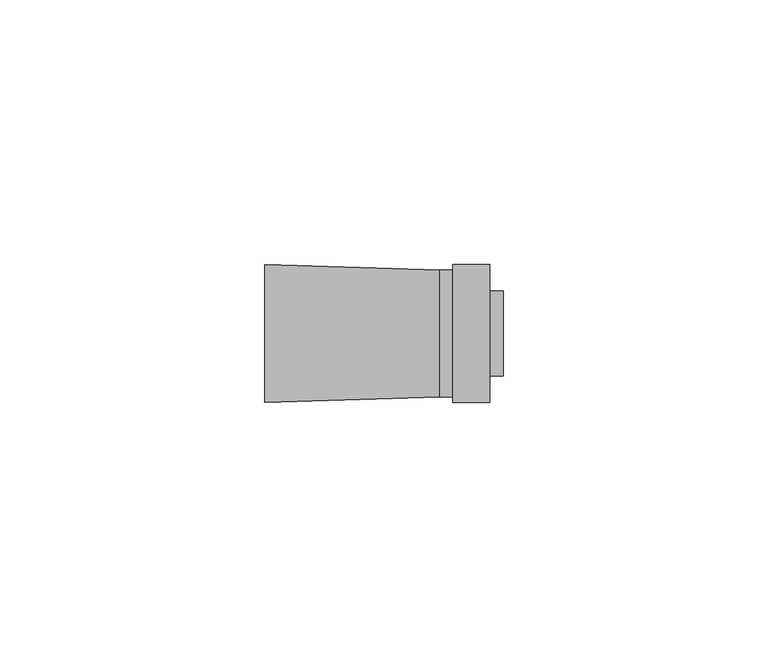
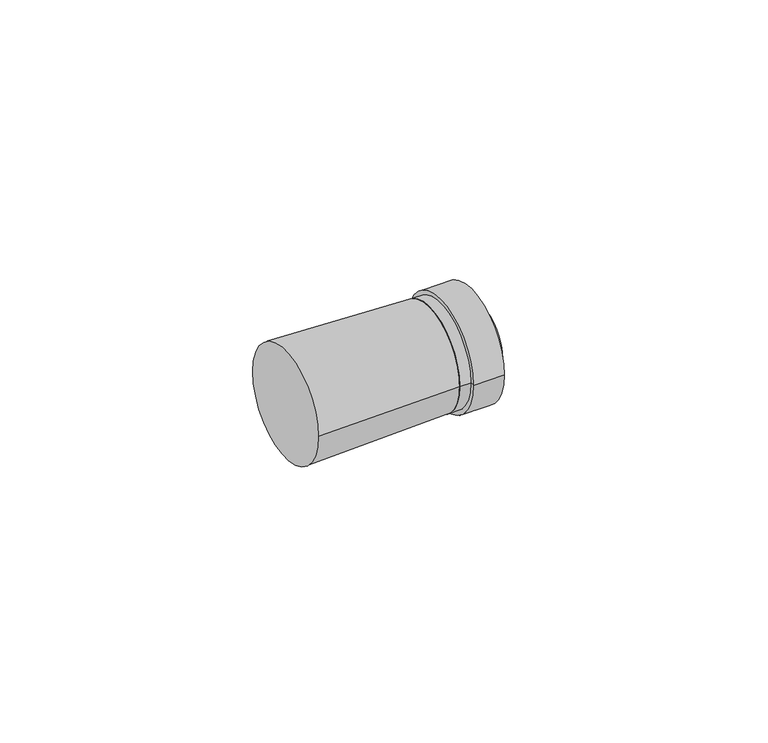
"""IFC4 building model written with IfcOpenShell, lengths in millimetres: cable carrier fitting geometry."""

from ifc_helpers import new_model, si_unit, frame, origin, place, context, project, spatial, polyline, circle_curve, source, transform, mapped, element, save
from ifc_brep_helpers import plane_surface, cylinder_surface, revolved_surface, advanced_brep


def cable_carrier_fitting_236aead8(model_context):
    return source(origin(), model_context, "Body", "AdvancedBrep", [
        advanced_brep(
        [(22.5, -8.0, 0.0), (22.5, 8.0, 0.0), (22.5, 0.0, 0.0), (20.0, -8.0, 0.0), (20.0, 8.0, 0.0), (20.0, -13.0, 0.0), (20.0, 13.0, 0.0), (13.0, -13.0, 0.0), (13.0, 13.0, 0.0), (13.0, -12.0, 0.0), (13.0, 12.0, 0.0), (10.5, -12.0, 0.0), (10.5, 12.0, 0.0), (10.5, 0.0, 0.0)],
        [
            (0, 1, circle_curve(frame((22.5, 0.0, 0.0), z_axis=(1.0, 0.0, 0.0), x_axis=(0.0, 1.0, 0.0)), 8.0)),
            (1, 2),
            (2, 0),
            (1, 0, circle_curve(frame((22.5, 0.0, 0.0), z_axis=(1.0, 0.0, 0.0), x_axis=(0.0, 1.0, 0.0)), 8.0)),
            (3, 4, circle_curve(frame((20.0, 0.0, 0.0), z_axis=(1.0, 0.0, 0.0), x_axis=(0.0, 1.0, 0.0)), 8.0)),
            (4, 1),
            (0, 3),
            (4, 3, circle_curve(frame((20.0, 0.0, 0.0), z_axis=(1.0, 0.0, 0.0), x_axis=(0.0, 1.0, 0.0)), 8.0)),
            (5, 6, circle_curve(frame((20.0, 0.0, 0.0), z_axis=(1.0, 0.0, 0.0), x_axis=(0.0, 1.0, 0.0)), 13.0)),
            (6, 4),
            (3, 5),
            (6, 5, circle_curve(frame((20.0, 0.0, 0.0), z_axis=(1.0, 0.0, 0.0), x_axis=(0.0, 1.0, 0.0)), 13.0)),
            (7, 8, circle_curve(frame((13.0, 0.0, 0.0), z_axis=(1.0, 0.0, 0.0), x_axis=(0.0, 1.0, 0.0)), 13.0)),
            (8, 6),
            (5, 7),
            (8, 7, circle_curve(frame((13.0, 0.0, 0.0), z_axis=(1.0, 0.0, 0.0), x_axis=(0.0, 1.0, 0.0)), 13.0)),
            (9, 10, circle_curve(frame((13.0, 0.0, 0.0), z_axis=(1.0, 0.0, 0.0), x_axis=(0.0, 1.0, 0.0)), 12.0)),
            (10, 8),
            (7, 9),
            (10, 9, circle_curve(frame((13.0, 0.0, 0.0), z_axis=(1.0, 0.0, 0.0), x_axis=(0.0, 1.0, 0.0)), 12.0)),
            (11, 12, circle_curve(frame((10.5, 0.0, 0.0), z_axis=(1.0, 0.0, 0.0), x_axis=(0.0, 1.0, 0.0)), 12.0)),
            (12, 10),
            (9, 11),
            (12, 11, circle_curve(frame((10.5, 0.0, 0.0), z_axis=(1.0, 0.0, 0.0), x_axis=(0.0, 1.0, 0.0)), 12.0)),
            (13, 12),
            (11, 13),
        ],
        [
            plane_surface(frame((22.5, 0.0, 0.0), z_axis=(1.0, 0.0, 0.0), x_axis=(0.0, 1.0, 0.0))),
            cylinder_surface(frame((1518.0, 0.0, 0.0), z_axis=(-1.0, 0.0, 0.0), x_axis=(0.0, 1.0, 0.0)), 8.0),
            plane_surface(frame((20.0, 0.0, 0.0), z_axis=(1.0, 0.0, 0.0), x_axis=(0.0, 1.0, 0.0))),
            cylinder_surface(frame((1518.0, 0.0, 0.0), z_axis=(-1.0, 0.0, 0.0), x_axis=(0.0, 1.0, 0.0)), 13.0),
            plane_surface(frame((13.0, 0.0, 0.0), z_axis=(-1.0, 0.0, 0.0), x_axis=(0.0, 1.0, 0.0))),
            cylinder_surface(frame((1518.0, 0.0, 0.0), z_axis=(-1.0, 0.0, 0.0), x_axis=(0.0, 1.0, 0.0)), 12.0),
            plane_surface(frame((10.5, 0.0, 0.0), z_axis=(-1.0, 0.0, 0.0), x_axis=(0.0, 1.0, 0.0))),
        ],
        [
            (0, [[1, 2, 3]]),
            (0, [[4, -3, -2]]),
            (1, [[5, 6, -1, 7]]),
            (1, [[8, -7, -4, -6]]),
            (2, [[9, 10, -5, 11]]),
            (2, [[12, -11, -8, -10]]),
            (3, [[13, 14, -9, 15]]),
            (3, [[16, -15, -12, -14]]),
            (4, [[17, 18, -13, 19]]),
            (4, [[20, -19, -16, -18]]),
            (5, [[21, 22, -17, 23]]),
            (5, [[24, -23, -20, -22]]),
            (6, [[25, -21, 26]]),
            (6, [[-26, -24, -25]]),
        ],
    ),
        advanced_brep(
        [(-22.5, -13.0, 0.0), (-22.5, 13.0, 0.0), (10.5, -12.0, 0.0), (10.5, 12.0, 0.0)],
        [
            (0, 1, circle_curve(frame((-22.5, 0.0, 0.0), z_axis=(-1.0, 0.0, 0.0), x_axis=(0.0, -1.0, 0.0)), 13.0)),
            (1, 0, circle_curve(frame((-22.5, 0.0, 0.0), z_axis=(-1.0, 0.0, 0.0), x_axis=(0.0, 1.0, 0.0)), 13.0)),
            (2, 3, circle_curve(frame((10.5, 0.0, 0.0), z_axis=(1.0, 0.0, 0.0), x_axis=(0.0, 1.0, 0.0)), 12.0)),
            (3, 2, circle_curve(frame((10.5, 0.0, 0.0), z_axis=(1.0, 0.0, 0.0), x_axis=(0.0, -1.0, 0.0)), 12.0)),
            (2, 0),
            (1, 3),
        ],
        [
            plane_surface(frame((-22.5, 0.0, 0.0), z_axis=(-1.0, 0.0, 0.0), x_axis=(0.0, 0.0, -1.0))),
            plane_surface(frame((10.5, 0.0, 0.0), z_axis=(1.0, 0.0, 0.0), x_axis=(0.0, 0.0, -1.0))),
            revolved_surface(polyline([(10.5, -12.0, 0.0), (-22.5, -13.0, 0.0)]), (406.5, 0.0, 0.0), (-1.0, 0.0, 0.0)),
            revolved_surface(polyline([(10.5, 12.0, 0.0), (-22.5, 13.0, 0.0)]), (406.5, 0.0, 0.0), (-1.0, 0.0, 0.0)),
        ],
        [
            (0, [[1, 2]]),
            (1, [[3, 4]]),
            (2, [[-3, 5, -2, 6]]),
            (3, [[-4, -6, -1, -5]]),
        ],
    ),
    ])


if __name__ == "__main__":
    model = new_model("IFC4")
    model_context = context("Model", 3, world=origin())
    ifc_project = project(units=[si_unit("LENGTHUNIT", "METRE", prefix="MILLI")], contexts=[model_context])
    site = spatial("IfcSite", under=ifc_project)
    building = spatial("IfcBuilding", under=site)
    placement = place(None, origin())
    cable_carrier_fitting_shape = cable_carrier_fitting_236aead8(model_context)
    element("IfcCableCarrierFitting", 1, at=placement, inside=building, context=model_context, shape_type="MappedRepresentation", body=[
        mapped(cable_carrier_fitting_shape, transform((0.0, 0.0, 0.0), x_axis=(1.0, 0.0, 0.0), y_axis=(0.0, 1.0, 0.0), z_axis=(0.0, 0.0, 1.0))),
    ])
    save(model, "model.ifc")
